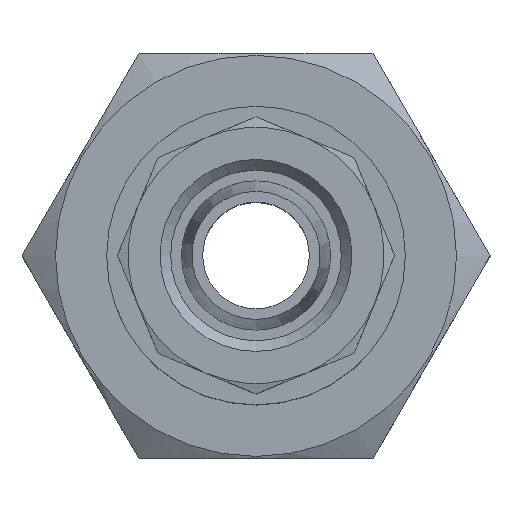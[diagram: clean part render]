
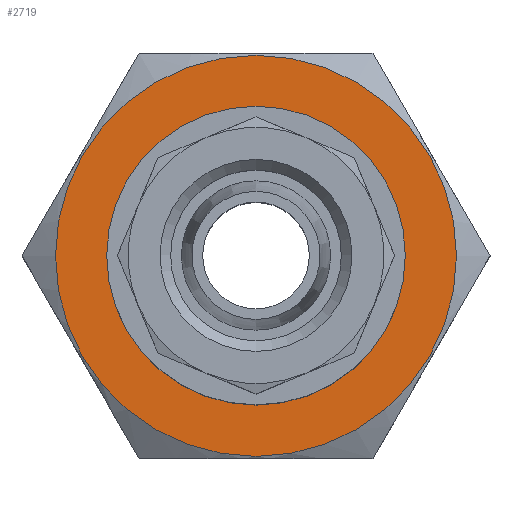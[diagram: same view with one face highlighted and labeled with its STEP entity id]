
A CAD part, top view. The second image highlights one B-rep face of the part: STEP entity #2719.
In plain terms, the highlighted planar face has unit normal (0, 0, 1) as drawn and (0, 1, 0) by its records, which use the part's own axes.
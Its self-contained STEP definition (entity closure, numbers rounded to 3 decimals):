
#745=PLANE('',#2641);
#939=ORIENTED_EDGE('',*,*,#1195,.F.);
#940=ORIENTED_EDGE('',*,*,#1152,.F.);
#992=CIRCLE('',#2571,5.25);
#1021=CIRCLE('',#2637,9.4);
#1058=VERTEX_POINT('',#2366);
#1095=VERTEX_POINT('',#2473);
#1152=EDGE_CURVE('',#1058,#1058,#992,.T.);
#1195=EDGE_CURVE('',#1095,#1095,#1021,.T.);
#1297=EDGE_LOOP('',(#939));
#1298=EDGE_LOOP('',(#940));
#1401=FACE_BOUND('',#1297,.T.);
#1402=FACE_BOUND('',#1298,.T.);
#2064=DIRECTION('',(0.,1.,0.));
#2065=DIRECTION('',(0.,0.,-5.25));
#2200=DIRECTION('',(0.,-1.,0.));
#2201=DIRECTION('',(0.,0.,9.4));
#2208=DIRECTION('',(0.,1.,0.));
#2209=DIRECTION('',(1.,0.,0.));
#2366=CARTESIAN_POINT('',(22.436,27.173,-5.25));
#2367=CARTESIAN_POINT('',(22.436,27.173,0.));
#2473=CARTESIAN_POINT('',(22.436,27.173,9.4));
#2474=CARTESIAN_POINT('',(22.436,27.173,0.));
#2480=CARTESIAN_POINT('',(31.836,27.173,0.));
#2571=AXIS2_PLACEMENT_3D('',#2367,#2064,#2065);
#2637=AXIS2_PLACEMENT_3D('',#2474,#2200,#2201);
#2641=AXIS2_PLACEMENT_3D('',#2480,#2208,#2209);
#2719=ADVANCED_FACE('',(#1401,#1402),#745,.T.);
